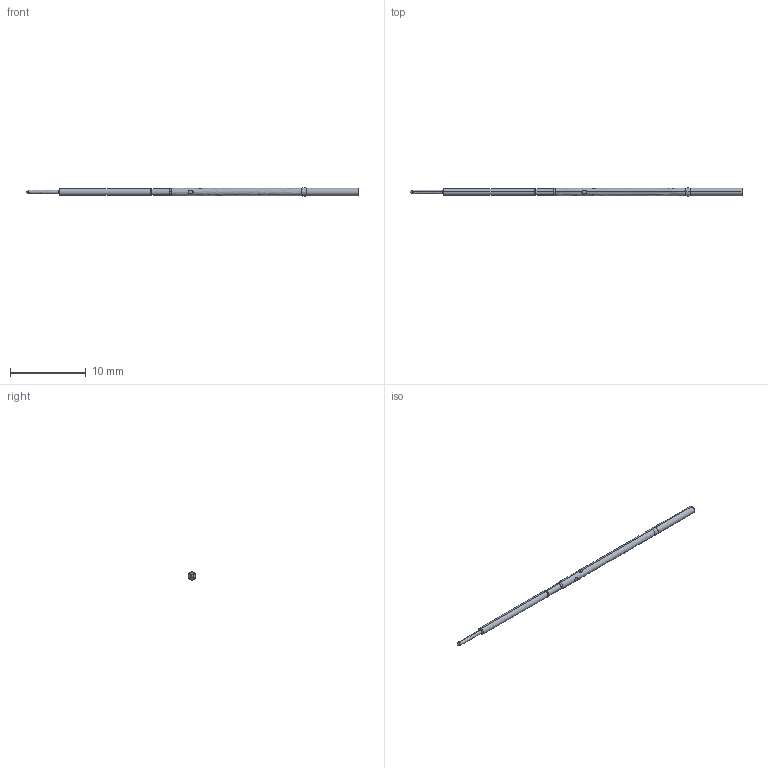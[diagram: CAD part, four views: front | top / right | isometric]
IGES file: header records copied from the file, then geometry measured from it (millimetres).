
Start section: SolidWorks IGES file using analytic representation for surfaces
Global section: file name: Z:\probe solid model mockups\Solidworks models\DER -050 IGS files\DER-050T.IGS; native system: SolidWorks 2006 by SolidWorks Corporation; preprocessor: SolidWorks 2006 by SolidWorks Corporation; author: tsakatani; date: 071218.084453; units: inch
Bounding box: 43.84 x 1.07 x 1.08 mm (x, y, z)
Surface area: 183.6 mm2 (no closed solid volume)
Topology: 0 solids, 0 shells, 39 faces, 378 edges, 378 vertices
Faces by surface type: revolution 29, bspline 10
